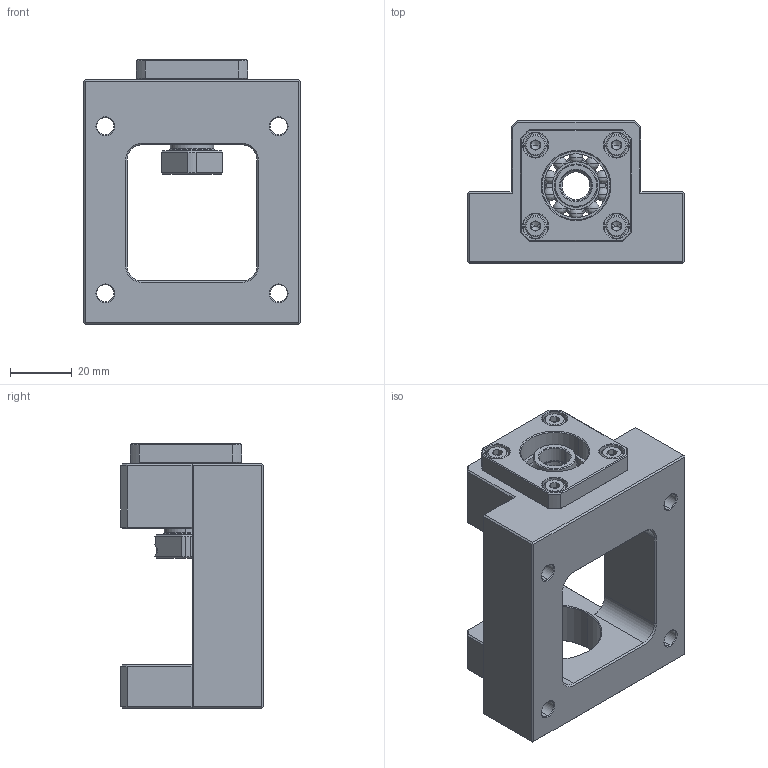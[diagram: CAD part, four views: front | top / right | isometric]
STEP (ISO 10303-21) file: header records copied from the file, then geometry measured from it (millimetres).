
FILE_DESCRIPTION (( 'STEP AP203' ), '1' );
FILE_NAME ('SBJU10B.STEP', '2009-06-01T01:42:48', ( '冠犁泅' ), ( '俺惯何' ), 'SwSTEP 2.0', 'SolidWorks 2007', '' );
FILE_SCHEMA (( 'CONFIG_CONTROL_DESIGN' ));
Length unit declared in the file: millimetre
Products named in the file (10): SBJU10B_P0-BODY_ル遽; 7000adf_ル遽; Socket Set Screw Flat Point_AM_B18.3.6M - M4 x 0.7 x 4 Hex Socket Flat Pt. SS --N_B18.3.6M - M4 x 0.7 x 4 Hex Socket Flat Pt. SS --N; K10_EK_AK_FK10(COLLAR)_晦獄 撲薑; SBJU10B; SBJU10_COVER_ル遽; RN10_ル遽; RN10_NUT_晦獄 撲薑; SET PIECE_白3.1x1_晦獄 撲薑; Socket Head Cap Screw_M4x12L_B18.3.1M - 4 x 0.7 x 8 Hex SHCS -- 8NHX
Assembly tree (13 placements, depth 3):
  SBJU10B
    7000adf_ル遽
    SBJU10B_P0-BODY_ル遽
    Socket Head Cap Screw_M4x12L_B18.3.1M - 4 x 0.7 x 8 Hex SHCS -- 8NHX  x4
    K10_EK_AK_FK10(COLLAR)_晦獄 撲薑  x2
    RN10_ル遽
      RN10_NUT_晦獄 撲薑
      SET PIECE_白3.1x1_晦獄 撲薑
      Socket Set Screw Flat Point_AM_B18.3.6M - M4 x 0.7 x 4 Hex Socket Flat Pt. SS --N_B18.3.6M - M4 x 0.7 x 4 Hex Socket Flat Pt. SS --N
    SBJU10_COVER_ル遽
Bounding box: 70 x 46 x 85.5 mm (x, y, z)
Volume: 102907.3 mm3; surface area: 39449.4 mm2
Topology: 11 solids, 34 shells, 550 faces, 1260 edges, 700 vertices
Faces by surface type: plane 182, cone 155, cylinder 133, bspline 72, torus 8
Entity records: 14914 total; most frequent: CARTESIAN_POINT 3998, DIRECTION 2145, ORIENTED_EDGE 1912, EDGE_CURVE 958, AXIS2_PLACEMENT_3D 839, VERTEX_POINT 583, EDGE_LOOP 513, VECTOR 467
